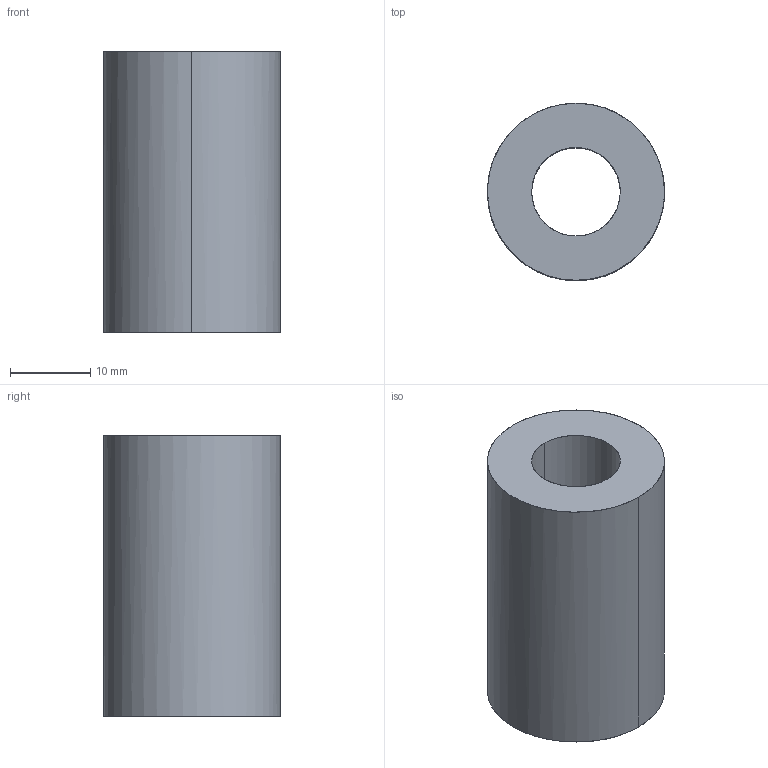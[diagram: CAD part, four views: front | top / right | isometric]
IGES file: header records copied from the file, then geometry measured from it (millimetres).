
Global section: file name: E:\UnigraphicsGraphicData\MISUMI_PRESS-PARTS\IGES\3d_swz22-35_00776_r00.igs; native system: NX V5.0; preprocessor: UGS NX IGES V5.0; author: MISUMI; date: 20110105.163303; units: millimetre
Bounding box: 22 x 22 x 35 mm (x, y, z)
Surface area: 4200.6 mm2 (no closed solid volume)
Topology: 0 solids, 0 shells, 6 faces, 48 edges, 48 vertices
Faces by surface type: bspline 6
